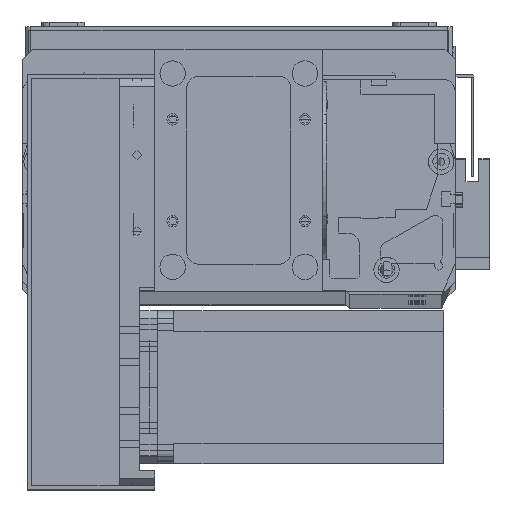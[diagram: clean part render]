
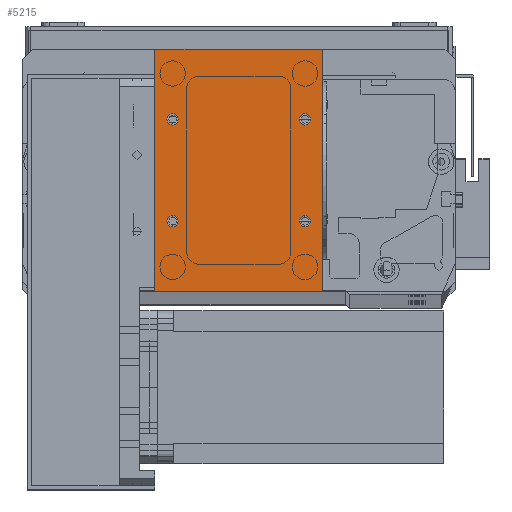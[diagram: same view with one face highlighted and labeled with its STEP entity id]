
A CAD part, top view. The second image highlights one B-rep face of the part: STEP entity #5215.
In plain terms, the highlighted planar face has unit normal (0, 0, 1).
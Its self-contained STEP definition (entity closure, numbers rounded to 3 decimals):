
#290 = VERTEX_POINT ( 'NONE', #1297 ) ;
#755 = CARTESIAN_POINT ( 'NONE',  ( 56.75, 27.5, 2. ) ) ;
#876 = ORIENTED_EDGE ( 'NONE', *, *, #26920, .T. ) ;
#936 = CARTESIAN_POINT ( 'NONE',  ( 0., 0., 2. ) ) ;
#1079 = DIRECTION ( 'NONE',  ( 1., 0., 0. ) ) ;
#1148 = AXIS2_PLACEMENT_3D ( 'NONE', #22970, #6854, #25669 ) ;
#1192 = PLANE ( 'NONE',  #10761 ) ;
#1215 = ORIENTED_EDGE ( 'NONE', *, *, #16820, .T. ) ;
#1297 = CARTESIAN_POINT ( 'NONE',  ( 9.25, 27.5, 2. ) ) ;
#1511 = EDGE_CURVE ( 'NONE', #27370, #14084, #27299, .T. ) ;
#2323 = CIRCLE ( 'NONE', #27592, 2.25 ) ;
#2386 = VERTEX_POINT ( 'NONE', #5271 ) ;
#2513 = VERTEX_POINT ( 'NONE', #13473 ) ;
#2831 = CARTESIAN_POINT ( 'NONE',  ( 0., 95., 2. ) ) ;
#3799 = CARTESIAN_POINT ( 'NONE',  ( 0., 95., 2. ) ) ;
#4113 = EDGE_CURVE ( 'NONE', #14084, #26275, #24749, .T. ) ;
#4191 = DIRECTION ( 'NONE',  ( 0., 0., 1. ) ) ;
#4195 = ORIENTED_EDGE ( 'NONE', *, *, #16343, .F. ) ;
#4463 = ORIENTED_EDGE ( 'NONE', *, *, #21937, .F. ) ;
#4662 = CARTESIAN_POINT ( 'NONE',  ( 7., 67.5, 2. ) ) ;
#4793 = EDGE_CURVE ( 'NONE', #32182, #26935, #20505, .T. ) ;
#4968 = CARTESIAN_POINT ( 'NONE',  ( 66., 0., 2. ) ) ;
#5106 = VERTEX_POINT ( 'NONE', #4968 ) ;
#5215 = ADVANCED_FACE ( 'NONE', ( #18804, #32019, #25090, #17968, #10778 ), #1192, .F. ) ;
#5271 = CARTESIAN_POINT ( 'NONE',  ( 61.25, 67.5, 2. ) ) ;
#5885 = VECTOR ( 'NONE', #24553, 1000. ) ;
#6000 = EDGE_LOOP ( 'NONE', ( #9286, #1215, #876, #33886 ) ) ;
#6357 = AXIS2_PLACEMENT_3D ( 'NONE', #4662, #23506, #7419 ) ;
#6630 = EDGE_CURVE ( 'NONE', #2386, #2513, #11557, .T. ) ;
#6854 = DIRECTION ( 'NONE',  ( 0., 0., 1. ) ) ;
#7248 = VECTOR ( 'NONE', #33098, 1000. ) ;
#7299 = VERTEX_POINT ( 'NONE', #755 ) ;
#7419 = DIRECTION ( 'NONE',  ( 1., 0., 0. ) ) ;
#7795 = CARTESIAN_POINT ( 'NONE',  ( 66., 0., 2. ) ) ;
#8091 = EDGE_CURVE ( 'NONE', #2513, #2386, #13602, .T. ) ;
#8307 = ORIENTED_EDGE ( 'NONE', *, *, #6630, .F. ) ;
#8601 = DIRECTION ( 'NONE',  ( -1., 0., 0. ) ) ;
#8812 = DIRECTION ( 'NONE',  ( 0., 0., -1. ) ) ;
#9034 = CARTESIAN_POINT ( 'NONE',  ( 59., 67.5, 2. ) ) ;
#9286 = ORIENTED_EDGE ( 'NONE', *, *, #4113, .T. ) ;
#9294 = AXIS2_PLACEMENT_3D ( 'NONE', #9034, #14697, #32077 ) ;
#9507 = CARTESIAN_POINT ( 'NONE',  ( 66., 95., 2. ) ) ;
#10067 = AXIS2_PLACEMENT_3D ( 'NONE', #33188, #17408, #1079 ) ;
#10761 = AXIS2_PLACEMENT_3D ( 'NONE', #936, #8812, #8601 ) ;
#10778 = FACE_OUTER_BOUND ( 'NONE', #6000, .T. ) ;
#11254 = DIRECTION ( 'NONE',  ( 0., 0., 1. ) ) ;
#11535 = AXIS2_PLACEMENT_3D ( 'NONE', #13853, #13740, #13513 ) ;
#11557 = CIRCLE ( 'NONE', #11535, 2.25 ) ;
#13305 = DIRECTION ( 'NONE',  ( 0., -1., 0. ) ) ;
#13327 = CARTESIAN_POINT ( 'NONE',  ( 0., 0., 2. ) ) ;
#13473 = CARTESIAN_POINT ( 'NONE',  ( 56.75, 67.5, 2. ) ) ;
#13513 = DIRECTION ( 'NONE',  ( 1., 0., 0. ) ) ;
#13602 = CIRCLE ( 'NONE', #9294, 2.25 ) ;
#13612 = DIRECTION ( 'NONE',  ( 1., 0., 0. ) ) ;
#13653 = DIRECTION ( 'NONE',  ( 0., 0., 1. ) ) ;
#13740 = DIRECTION ( 'NONE',  ( 0., 0., 1. ) ) ;
#13786 = CARTESIAN_POINT ( 'NONE',  ( 7., 67.5, 2. ) ) ;
#13853 = CARTESIAN_POINT ( 'NONE',  ( 59., 67.5, 2. ) ) ;
#14084 = VERTEX_POINT ( 'NONE', #3799 ) ;
#14674 = ORIENTED_EDGE ( 'NONE', *, *, #17942, .F. ) ;
#14697 = DIRECTION ( 'NONE',  ( 0., 0., 1. ) ) ;
#16212 = ORIENTED_EDGE ( 'NONE', *, *, #8091, .F. ) ;
#16343 = EDGE_CURVE ( 'NONE', #32878, #7299, #2323, .T. ) ;
#16383 = VECTOR ( 'NONE', #21174, 1000. ) ;
#16820 = EDGE_CURVE ( 'NONE', #26275, #5106, #20692, .T. ) ;
#17408 = DIRECTION ( 'NONE',  ( 0., 0., 1. ) ) ;
#17536 = AXIS2_PLACEMENT_3D ( 'NONE', #13786, #13653, #13612 ) ;
#17785 = EDGE_LOOP ( 'NONE', ( #20464, #4463 ) ) ;
#17846 = CARTESIAN_POINT ( 'NONE',  ( 4.75, 27.5, 2. ) ) ;
#17942 = EDGE_CURVE ( 'NONE', #290, #24828, #18958, .T. ) ;
#17968 = FACE_BOUND ( 'NONE', #30246, .T. ) ;
#18804 = FACE_BOUND ( 'NONE', #17785, .T. ) ;
#18958 = CIRCLE ( 'NONE', #1148, 2.25 ) ;
#19098 = EDGE_CURVE ( 'NONE', #24828, #290, #25583, .T. ) ;
#19558 = CIRCLE ( 'NONE', #6357, 2.25 ) ;
#20357 = CARTESIAN_POINT ( 'NONE',  ( 59., 27.5, 2. ) ) ;
#20464 = ORIENTED_EDGE ( 'NONE', *, *, #4793, .F. ) ;
#20505 = CIRCLE ( 'NONE', #17536, 2.25 ) ;
#20692 = LINE ( 'NONE', #33200, #7248 ) ;
#21157 = EDGE_LOOP ( 'NONE', ( #4195, #29179 ) ) ;
#21174 = DIRECTION ( 'NONE',  ( 0., 1., 0. ) ) ;
#21937 = EDGE_CURVE ( 'NONE', #26935, #32182, #19558, .T. ) ;
#22684 = LINE ( 'NONE', #7795, #16383 ) ;
#22970 = CARTESIAN_POINT ( 'NONE',  ( 7., 27.5, 2. ) ) ;
#23070 = DIRECTION ( 'NONE',  ( 1., 0., 0. ) ) ;
#23506 = DIRECTION ( 'NONE',  ( 0., 0., 1. ) ) ;
#24553 = DIRECTION ( 'NONE',  ( -1., 0., 0. ) ) ;
#24749 = LINE ( 'NONE', #13327, #31702 ) ;
#24828 = VERTEX_POINT ( 'NONE', #17846 ) ;
#25090 = FACE_BOUND ( 'NONE', #21157, .T. ) ;
#25583 = CIRCLE ( 'NONE', #32178, 2.25 ) ;
#25669 = DIRECTION ( 'NONE',  ( 1., 0., 0. ) ) ;
#25915 = EDGE_CURVE ( 'NONE', #7299, #32878, #29371, .T. ) ;
#26275 = VERTEX_POINT ( 'NONE', #34644 ) ;
#26602 = CARTESIAN_POINT ( 'NONE',  ( 4.75, 67.5, 2. ) ) ;
#26920 = EDGE_CURVE ( 'NONE', #5106, #27370, #22684, .T. ) ;
#26935 = VERTEX_POINT ( 'NONE', #26602 ) ;
#27299 = LINE ( 'NONE', #2831, #5885 ) ;
#27303 = CARTESIAN_POINT ( 'NONE',  ( 7., 27.5, 2. ) ) ;
#27370 = VERTEX_POINT ( 'NONE', #9507 ) ;
#27592 = AXIS2_PLACEMENT_3D ( 'NONE', #20357, #4191, #23070 ) ;
#29179 = ORIENTED_EDGE ( 'NONE', *, *, #25915, .F. ) ;
#29371 = CIRCLE ( 'NONE', #10067, 2.25 ) ;
#29910 = DIRECTION ( 'NONE',  ( 1., 0., 0. ) ) ;
#30246 = EDGE_LOOP ( 'NONE', ( #14674, #32116 ) ) ;
#31702 = VECTOR ( 'NONE', #13305, 1000. ) ;
#32019 = FACE_BOUND ( 'NONE', #32662, .T. ) ;
#32077 = DIRECTION ( 'NONE',  ( 1., 0., 0. ) ) ;
#32116 = ORIENTED_EDGE ( 'NONE', *, *, #19098, .F. ) ;
#32178 = AXIS2_PLACEMENT_3D ( 'NONE', #27303, #11254, #29910 ) ;
#32182 = VERTEX_POINT ( 'NONE', #34556 ) ;
#32662 = EDGE_LOOP ( 'NONE', ( #8307, #16212 ) ) ;
#32878 = VERTEX_POINT ( 'NONE', #34419 ) ;
#33098 = DIRECTION ( 'NONE',  ( 1., 0., 0. ) ) ;
#33188 = CARTESIAN_POINT ( 'NONE',  ( 59., 27.5, 2. ) ) ;
#33200 = CARTESIAN_POINT ( 'NONE',  ( 0., 0., 2. ) ) ;
#33886 = ORIENTED_EDGE ( 'NONE', *, *, #1511, .T. ) ;
#34419 = CARTESIAN_POINT ( 'NONE',  ( 61.25, 27.5, 2. ) ) ;
#34556 = CARTESIAN_POINT ( 'NONE',  ( 9.25, 67.5, 2. ) ) ;
#34644 = CARTESIAN_POINT ( 'NONE',  ( 0., 0., 2. ) ) ;
